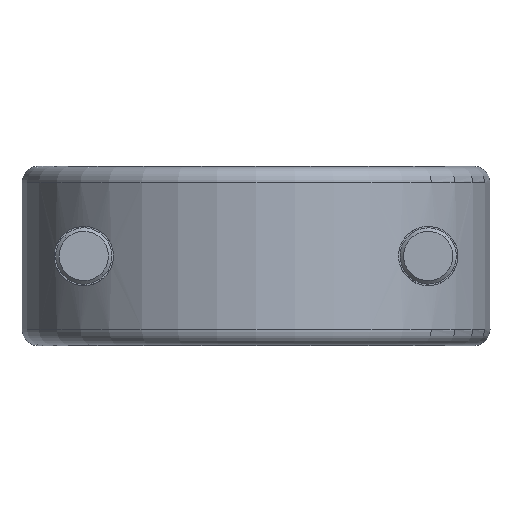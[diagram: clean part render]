
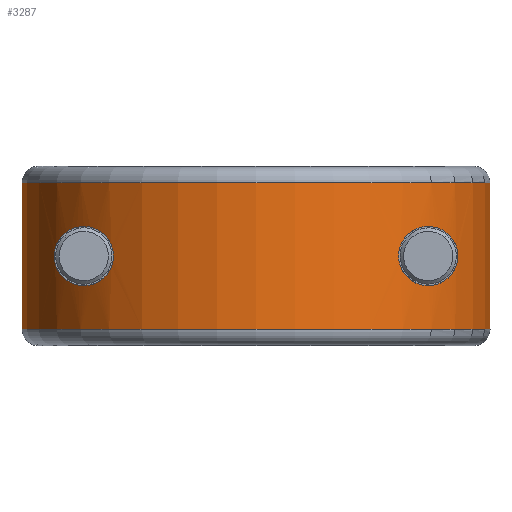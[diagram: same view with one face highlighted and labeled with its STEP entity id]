
A CAD part, front view. The second image highlights one B-rep face of the part: STEP entity #3287.
In plain terms, the highlighted cylindrical face has radius 17 mm (diameter 34 mm), a partial arc.
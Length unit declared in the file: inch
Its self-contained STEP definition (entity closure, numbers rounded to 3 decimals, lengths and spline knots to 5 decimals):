
#2641=CARTESIAN_POINT('',(0.66856,-0.0313,
0.04605));
#2791=CARTESIAN_POINT('',(0.,0.,0.46575));
#2792=DIRECTION('',(0.,0.,1.));
#2793=DIRECTION('',(-0.999,-0.047,0.));
#2794=AXIS2_PLACEMENT_3D('',#2791,#2792,#2793);
#2796=DIRECTION('',(0.,0.,-1.));
#2797=VECTOR('',#2796,0.4197);
#2798=CARTESIAN_POINT('',(0.66856,-0.0313,
0.46576));
#2799=LINE('',#2798,#2797);
#2800=CARTESIAN_POINT('',(0.,0.,0.04606));
#2801=DIRECTION('',(0.,0.,-1.));
#2802=DIRECTION('',(0.999,-0.047,0.));
#2803=AXIS2_PLACEMENT_3D('',#2800,#2801,#2802);
#2805=DIRECTION('',(0.,0.,1.));
#2806=VECTOR('',#2805,0.4197);
#2807=CARTESIAN_POINT('',(-0.66856,-0.0313,
0.04605));
#2808=LINE('',#2807,#2806);
#2809=CARTESIAN_POINT('',(-0.492,-0.45375,0.34066));
#2810=CARTESIAN_POINT('',(-0.48506,-0.46127,0.34066));
#2811=CARTESIAN_POINT('',(-0.47174,-0.47503,
0.33896));
#2812=CARTESIAN_POINT('',(-0.45375,-0.49217,
0.3323));
#2813=CARTESIAN_POINT('',(-0.43834,-0.50589,
0.32232));
#2814=CARTESIAN_POINT('',(-0.4259,-0.51636,
0.30987));
#2815=CARTESIAN_POINT('',(-0.41651,-0.52393,
0.29564));
#2816=CARTESIAN_POINT('',(-0.41028,-0.5288,
0.28025));
#2817=CARTESIAN_POINT('',(-0.40712,-0.53123,
0.26414));
#2818=CARTESIAN_POINT('',(-0.40713,-0.53123,
0.24775));
#2819=CARTESIAN_POINT('',(-0.41027,-0.52881,
0.23166));
#2820=CARTESIAN_POINT('',(-0.41645,-0.52397,
0.21628));
#2821=CARTESIAN_POINT('',(-0.4258,-0.51644,
0.20206));
#2822=CARTESIAN_POINT('',(-0.43819,-0.50601,
0.18962));
#2823=CARTESIAN_POINT('',(-0.45358,-0.49233,
0.1796));
#2824=CARTESIAN_POINT('',(-0.4716,-0.47516,
0.17288));
#2825=CARTESIAN_POINT('',(-0.48501,-0.46133,
0.17116));
#2826=CARTESIAN_POINT('',(-0.492,-0.45375,0.17116));
#2828=CARTESIAN_POINT('',(0.492,-0.45375,0.17116));
#2829=CARTESIAN_POINT('',(0.48507,-0.46127,
0.17116));
#2830=CARTESIAN_POINT('',(0.47169,-0.47509,
0.17276));
#2831=CARTESIAN_POINT('',(0.45309,-0.49279,
0.17973));
#2832=CARTESIAN_POINT('',(0.44263,-0.50207,
0.18674));
#2833=CARTESIAN_POINT('',(0.4378,-0.50624,
0.19075));
#2835=CARTESIAN_POINT('',(0.492,-0.45375,0.34066));
#2836=CARTESIAN_POINT('',(0.49932,-0.44581,0.34066));
#2837=CARTESIAN_POINT('',(0.51273,-0.4305,
0.33881));
#2838=CARTESIAN_POINT('',(0.52956,-0.40954,
0.33253));
#2839=CARTESIAN_POINT('',(0.54336,-0.39097,
0.32391));
#2840=CARTESIAN_POINT('',(0.55444,-0.37504,
0.31383));
#2841=CARTESIAN_POINT('',(0.56317,-0.36175,
0.30266));
#2842=CARTESIAN_POINT('',(0.56977,-0.35122,
0.29047));
#2843=CARTESIAN_POINT('',(0.57432,-0.34368,
0.27748));
#2844=CARTESIAN_POINT('',(0.57689,-0.33934,
0.26301));
#2845=CARTESIAN_POINT('',(0.57681,-0.33947,
0.24811));
#2846=CARTESIAN_POINT('',(0.57419,-0.34391,
0.23386));
#2847=CARTESIAN_POINT('',(0.56966,-0.35139,
0.22113));
#2848=CARTESIAN_POINT('',(0.56314,-0.36179,
0.20912));
#2849=CARTESIAN_POINT('',(0.55444,-0.37503,
0.19799));
#2850=CARTESIAN_POINT('',(0.54335,-0.39099,
0.18788));
#2851=CARTESIAN_POINT('',(0.5295,-0.40962,
0.17924));
#2852=CARTESIAN_POINT('',(0.51264,-0.43061,
0.17298));
#2853=CARTESIAN_POINT('',(0.49928,-0.44586,
0.17116));
#2854=CARTESIAN_POINT('',(0.492,-0.45375,0.17116));
#2856=CARTESIAN_POINT('',(0.4378,-0.50624,
0.19075));
#2857=CARTESIAN_POINT('',(0.43326,-0.51017,
0.19453));
#2858=CARTESIAN_POINT('',(0.42524,-0.5169,
0.2028));
#2859=CARTESIAN_POINT('',(0.41621,-0.52416,
0.21681));
#2860=CARTESIAN_POINT('',(0.41021,-0.52885,
0.23187));
#2861=CARTESIAN_POINT('',(0.4072,-0.53117,
0.24732));
#2862=CARTESIAN_POINT('',(0.40707,-0.53127,
0.26317));
#2863=CARTESIAN_POINT('',(0.4099,-0.52909,
0.27897));
#2864=CARTESIAN_POINT('',(0.41598,-0.52435,
0.29465));
#2865=CARTESIAN_POINT('',(0.42537,-0.5168,
0.30925));
#2866=CARTESIAN_POINT('',(0.43798,-0.5062,
0.32205));
#2867=CARTESIAN_POINT('',(0.45349,-0.49241,
0.33218));
#2868=CARTESIAN_POINT('',(0.47161,-0.47516,
0.33895));
#2869=CARTESIAN_POINT('',(0.48501,-0.46132,0.34066));
#2870=CARTESIAN_POINT('',(0.492,-0.45375,0.34066));
#2906=CARTESIAN_POINT('',(-0.492,-0.45375,0.34066));
#2907=CARTESIAN_POINT('',(-0.49896,-0.4462,0.34066));
#2908=CARTESIAN_POINT('',(-0.51188,-0.43148,
0.33896));
#2909=CARTESIAN_POINT('',(-0.52812,-0.41131,
0.33315));
#2910=CARTESIAN_POINT('',(-0.54166,-0.39332,
0.32513));
#2911=CARTESIAN_POINT('',(-0.55259,-0.37773,
0.3157));
#2912=CARTESIAN_POINT('',(-0.56132,-0.36459,
0.30527));
#2913=CARTESIAN_POINT('',(-0.56808,-0.35394,
0.29399));
#2914=CARTESIAN_POINT('',(-0.573,-0.34595,
0.28196));
#2915=CARTESIAN_POINT('',(-0.57612,-0.3407,
0.26892));
#2916=CARTESIAN_POINT('',(-0.57713,-0.33893,
0.25493));
#2917=CARTESIAN_POINT('',(-0.57581,-0.34123,
0.24109));
#2918=CARTESIAN_POINT('',(-0.57251,-0.34677,
0.22843));
#2919=CARTESIAN_POINT('',(-0.56751,-0.35485,
0.21672));
#2920=CARTESIAN_POINT('',(-0.56073,-0.36549,
0.20574));
#2921=CARTESIAN_POINT('',(-0.55202,-0.37857,
0.19554));
#2922=CARTESIAN_POINT('',(-0.54113,-0.39405,
0.18632));
#2923=CARTESIAN_POINT('',(-0.52769,-0.41187,
0.17847));
#2924=CARTESIAN_POINT('',(-0.51161,-0.43179,
0.1728));
#2925=CARTESIAN_POINT('',(-0.49886,-0.44631,
0.17116));
#2926=CARTESIAN_POINT('',(-0.492,-0.45375,0.17116));
#2967=CARTESIAN_POINT('',(-0.492,-0.45375,0.17116));
#2969=VERTEX_POINT('',#2967);
#2971=VERTEX_POINT('',#2906);
#2974=VERTEX_POINT('',#2828);
#2975=VERTEX_POINT('',#2833);
#2976=VERTEX_POINT('',#2835);
#2977=CARTESIAN_POINT('',(-0.66856,-0.0313,
0.46575));
#2978=CARTESIAN_POINT('',(0.66856,-0.0313,
0.46575));
#2979=VERTEX_POINT('',#2977);
#2980=VERTEX_POINT('',#2978);
#2985=CARTESIAN_POINT('',(-0.66856,-0.0313,
0.04605));
#2986=VERTEX_POINT('',#2985);
#3025=VERTEX_POINT('',#2641);
#3261=CARTESIAN_POINT('',(0.,0.,0.04606));
#3262=DIRECTION('',(0.,0.,-1.));
#3263=DIRECTION('',(-1.,0.,0.));
#3264=AXIS2_PLACEMENT_3D('',#3261,#3262,#3263);
#3265=CYLINDRICAL_SURFACE('',#3264,0.66929);
#3266=ORIENTED_EDGE('',*,*,#3246,.T.);
#3267=ORIENTED_EDGE('',*,*,#3105,.T.);
#3269=ORIENTED_EDGE('',*,*,#3268,.T.);
#3270=ORIENTED_EDGE('',*,*,#3202,.T.);
#3271=EDGE_LOOP('',(#3266,#3267,#3269,#3270));
#3272=FACE_OUTER_BOUND('',#3271,.F.);
#3274=ORIENTED_EDGE('',*,*,#3273,.T.);
#3276=ORIENTED_EDGE('',*,*,#3275,.F.);
#3277=EDGE_LOOP('',(#3274,#3276));
#3278=FACE_BOUND('',#3277,.F.);
#3280=ORIENTED_EDGE('',*,*,#3279,.F.);
#3282=ORIENTED_EDGE('',*,*,#3281,.F.);
#3284=ORIENTED_EDGE('',*,*,#3283,.F.);
#3285=EDGE_LOOP('',(#3280,#3282,#3284));
#3286=FACE_BOUND('',#3285,.F.);
#2795=CIRCLE('',#2794,0.66929);
#2804=CIRCLE('',#2803,0.66929);
#2827=B_SPLINE_CURVE_WITH_KNOTS('',3,(#2809,#2810,#2811,#2812,#2813,#2814,#2815,
#2816,#2817,#2818,#2819,#2820,#2821,#2822,#2823,#2824,#2825,#2826),
.UNSPECIFIED.,.F.,.F.,(4,1,1,1,1,1,1,1,1,1,1,1,1,1,1,4),(0.,0.06667,
0.13333,0.2,0.26667,0.33333,0.4,
0.46667,0.53333,0.6,0.66667,0.73333,
0.8,0.86667,0.93333,1.),.UNSPECIFIED.);
#2834=B_SPLINE_CURVE_WITH_KNOTS('',3,(#2828,#2829,#2830,#2831,#2832,#2833),
.UNSPECIFIED.,.F.,.F.,(4,1,1,4),(0.,0.33333,0.66667,1.),
.UNSPECIFIED.);
#2855=B_SPLINE_CURVE_WITH_KNOTS('',3,(#2835,#2836,#2837,#2838,#2839,#2840,#2841,
#2842,#2843,#2844,#2845,#2846,#2847,#2848,#2849,#2850,#2851,#2852,#2853,#2854),
.UNSPECIFIED.,.F.,.F.,(4,1,1,1,1,1,1,1,1,1,1,1,1,1,1,1,1,4),(0.,
0.05882,0.11765,0.17647,0.23529,
0.29412,0.35294,0.41176,0.47059,
0.52941,0.58824,0.64706,0.70588,
0.76471,0.82353,0.88235,0.94118,1.),
.UNSPECIFIED.);
#2871=B_SPLINE_CURVE_WITH_KNOTS('',3,(#2856,#2857,#2858,#2859,#2860,#2861,#2862,
#2863,#2864,#2865,#2866,#2867,#2868,#2869,#2870),.UNSPECIFIED.,.F.,.F.,(4,1,1,1,
1,1,1,1,1,1,1,1,4),(0.,0.08333,0.16667,0.25,
0.33333,0.41667,0.5,0.58333,0.66667,
0.75,0.83333,0.91667,1.),.UNSPECIFIED.);
#2927=B_SPLINE_CURVE_WITH_KNOTS('',3,(#2906,#2907,#2908,#2909,#2910,#2911,#2912,
#2913,#2914,#2915,#2916,#2917,#2918,#2919,#2920,#2921,#2922,#2923,#2924,#2925,
#2926),.UNSPECIFIED.,.F.,.F.,(4,1,1,1,1,1,1,1,1,1,1,1,1,1,1,1,1,1,4),(0.,
0.05556,0.11111,0.16667,0.22222,
0.27778,0.33333,0.38889,0.44444,0.5,
0.55556,0.61111,0.66667,0.72222,
0.77778,0.83333,0.88889,0.94444,1.),
.UNSPECIFIED.);
#3105=EDGE_CURVE('',#2980,#3025,#2799,.T.);
#3202=EDGE_CURVE('',#2986,#2979,#2808,.T.);
#3246=EDGE_CURVE('',#2979,#2980,#2795,.T.);
#3268=EDGE_CURVE('',#3025,#2986,#2804,.T.);
#3273=EDGE_CURVE('',#2971,#2969,#2927,.T.);
#3275=EDGE_CURVE('',#2971,#2969,#2827,.T.);
#3279=EDGE_CURVE('',#2974,#2975,#2834,.T.);
#3281=EDGE_CURVE('',#2976,#2974,#2855,.T.);
#3283=EDGE_CURVE('',#2975,#2976,#2871,.T.);
#3287=ADVANCED_FACE('',(#3272,#3278,#3286),#3265,.T.);
